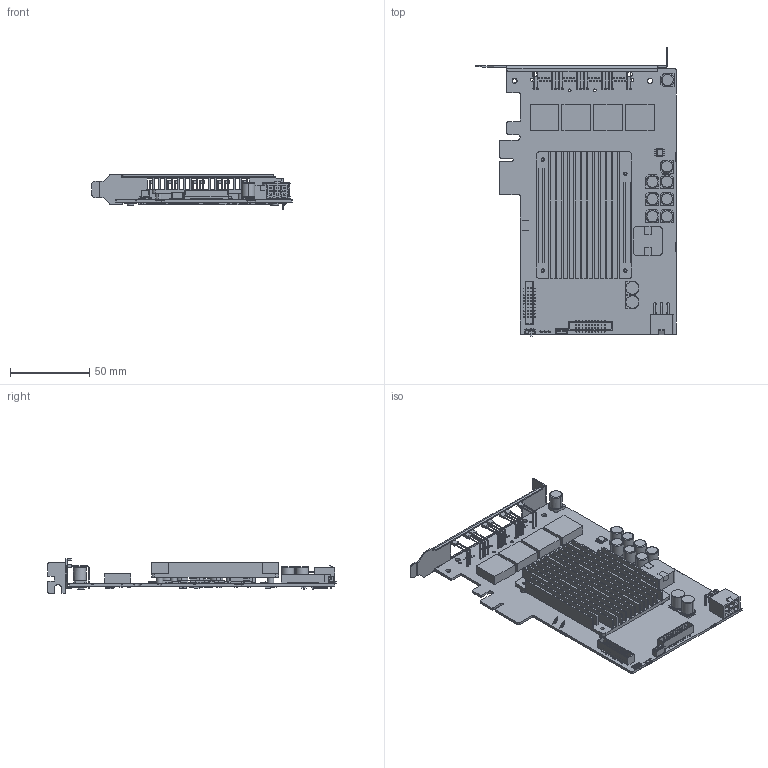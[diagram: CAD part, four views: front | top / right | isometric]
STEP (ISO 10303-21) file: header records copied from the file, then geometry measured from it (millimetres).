
FILE_DESCRIPTION((''),'2;1');
FILE_NAME('0010002_ASM','2024-12-31T11:40:23',('yanyucai'),(''),'CREO PARAMETRIC BY PTC INC, 2020044','CREO PARAMETRIC BY PTC INC, 2020044','');
FILE_SCHEMA(('CONFIG_CONTROL_DESIGN'));
Products named in the file (81): MV-20202REV10-202104132025; 101304647; 101106655; 100300537; 101106392; 101302794; 101107052; 101400781; 101302479; 1399; 193500315; 100300131; 100300257; 910300331_ASM; 910600479_ASM; 910600627_ASM; 100201282; 100200439; 100200457; 910200024_ASM; 100200156; 100200151; 101300388; 911100066; 101106241; 101100556; 100500223; 101303810; 100100011; 100100927; 100101013; 100300787; 100200916; 100200050; 100200432; 100201489; 100200142; 100200147; 100100452; 1001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
Assembly tree (527 placements, depth 4):
  0010002_ASM
    MV-20202REV10-202104132025_ASM
      MV-20202REV10-202104132025
      101304647
      101106655
      100300537
      101106392
      101302794  x2
      101107052
      101400781
      101302479
      1399  x7
      193500315  x4
      100300131
      100300257  x3
      910300331_ASM  x6
      910600479_ASM  x10
      910600627_ASM  x12
      100201282  x8
      910200024_ASM  x2
        100200439
        100200457
      100200156  x3
      100200151  x16
      101300388
      911100066  x6
      101106241  x3
      101100556
      100500223  x4
      101303810
      100100011  x16
      100100927  x43
      100101013  x2
      100300787
      100200916
      100200050  x16
      100200432
      100201489  x3
      100200142
      100200147
      100100452  x20
      1001  x15
      100100471  x5
      1004  x33
      100201288  x18
      100100855
      100200013
      100100461
      100100288  x2
      100100701
      100100386  x3
      100200029  x6
      100200004  x7
      100201217  x14
      100100456  x15
      100300241  x5
      100200596  x14
      100100373  x2
      100101010
      100101131
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Bounding box: 126.3 x 181.82 x 21.59 mm (x, y, z)
Volume: 68522.1 mm3; surface area: 87344.7 mm2
Topology: 506 solids, 506 shells, 8773 faces, 20501 edges, 13376 vertices
Faces by surface type: plane 7864, cylinder 773, cone 52, sphere 36, torus 32, extrusion 12, bspline 4
Entity records: 99611 total; most frequent: CARTESIAN_POINT 17569, DIRECTION 17508, ORIENTED_EDGE 15682, EDGE_CURVE 7841, VECTOR 6458, LINE 6454, AXIS2_PLACEMENT_3D 5525, VERTEX_POINT 5066
